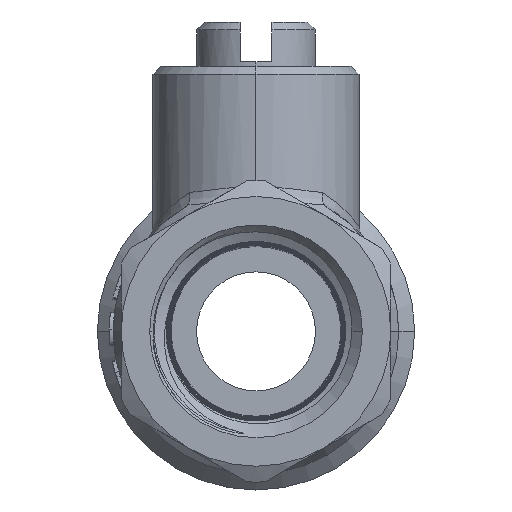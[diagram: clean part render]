
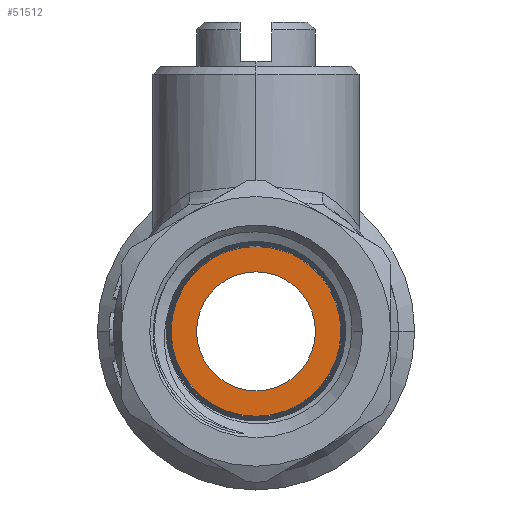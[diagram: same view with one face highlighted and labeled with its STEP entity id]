
A CAD part, left-side view. The second image highlights one B-rep face of the part: STEP entity #51512.
In plain terms, the highlighted planar face has unit normal (-1, 0, 0).
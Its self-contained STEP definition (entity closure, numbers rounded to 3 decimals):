
#25936 = VERTEX_POINT('',#25937);
#25937 = CARTESIAN_POINT('',(-9.,-7.497,
    -8.815));
#25946 = CONICAL_SURFACE('',#25947,5.671,0.031);
#25947 = AXIS2_PLACEMENT_3D('',#25948,#25949,#25950);
#25948 = CARTESIAN_POINT('',(-19.468,-2.145,
    -8.815));
#25949 = DIRECTION('',(-1.,0.,0.));
#25950 = DIRECTION('',(0.,-1.,0.));
#25958 = CONICAL_SURFACE('',#25959,5.671,0.031);
#25959 = AXIS2_PLACEMENT_3D('',#25960,#25961,#25962);
#25960 = CARTESIAN_POINT('',(-19.468,-2.145,
    -8.815));
#25961 = DIRECTION('',(-1.,0.,0.));
#25962 = DIRECTION('',(0.,-1.,0.));
#26209 = VERTEX_POINT('',#26210);
#26210 = CARTESIAN_POINT('',(-9.,3.206,
    -8.815));
#26231 = EDGE_CURVE('',#26209,#25936,#26232,.T.);
#26232 = SURFACE_CURVE('',#26233,(#26238,#26245),.PCURVE_S1.);
#26233 = CIRCLE('',#26234,5.351);
#26234 = AXIS2_PLACEMENT_3D('',#26235,#26236,#26237);
#26235 = CARTESIAN_POINT('',(-9.,-2.145,
    -8.815));
#26236 = DIRECTION('',(-1.,0.,0.));
#26237 = DIRECTION('',(0.,-1.,0.));
#26238 = PCURVE('',#25946,#26239);
#26239 = DEFINITIONAL_REPRESENTATION('',(#26240),#26244);
#26240 = LINE('',#26241,#26242);
#26241 = CARTESIAN_POINT('',(0.,-10.468));
#26242 = VECTOR('',#26243,1.);
#26243 = DIRECTION('',(1.,0.));
#26244 = ( GEOMETRIC_REPRESENTATION_CONTEXT(2) 
PARAMETRIC_REPRESENTATION_CONTEXT() REPRESENTATION_CONTEXT('2D SPACE',''
  ) );
#26245 = PCURVE('',#26246,#26251);
#26246 = PLANE('',#26247);
#26247 = AXIS2_PLACEMENT_3D('',#26248,#26249,#26250);
#26248 = CARTESIAN_POINT('',(-9.,-2.145,
    -8.815));
#26249 = DIRECTION('',(1.,0.,0.));
#26250 = DIRECTION('',(0.,1.,0.));
#26251 = DEFINITIONAL_REPRESENTATION('',(#26252),#26260);
#26252 = ( BOUNDED_CURVE() B_SPLINE_CURVE(2,(#26253,#26254,#26255,#26256
    ,#26257,#26258,#26259),.UNSPECIFIED.,.T.,.F.) 
B_SPLINE_CURVE_WITH_KNOTS((1,2,2,2,2,1),(-2.094,0.,
    2.094,4.189,6.283,8.378),
.UNSPECIFIED.) CURVE() GEOMETRIC_REPRESENTATION_ITEM() 
RATIONAL_B_SPLINE_CURVE((1.,0.5,1.,0.5,1.,0.5,1.)) REPRESENTATION_ITEM(
  '') );
#26253 = CARTESIAN_POINT('',(-5.351,0.));
#26254 = CARTESIAN_POINT('',(-5.351,9.269));
#26255 = CARTESIAN_POINT('',(2.676,4.635));
#26256 = CARTESIAN_POINT('',(10.703,0.));
#26257 = CARTESIAN_POINT('',(2.676,-4.635));
#26258 = CARTESIAN_POINT('',(-5.351,-9.269));
#26259 = CARTESIAN_POINT('',(-5.351,0.));
#26260 = ( GEOMETRIC_REPRESENTATION_CONTEXT(2) 
PARAMETRIC_REPRESENTATION_CONTEXT() REPRESENTATION_CONTEXT('2D SPACE',''
  ) );
#32365 = VERTEX_POINT('',#32366);
#32366 = CARTESIAN_POINT('',(-9.,-5.895,
    -8.815));
#32373 = CYLINDRICAL_SURFACE('',#32374,3.75);
#32374 = AXIS2_PLACEMENT_3D('',#32375,#32376,#32377);
#32375 = CARTESIAN_POINT('',(-20.5,-2.145,
    -8.815));
#32376 = DIRECTION('',(-1.,0.,0.));
#32377 = DIRECTION('',(0.,-1.,0.));
#32385 = CYLINDRICAL_SURFACE('',#32386,3.75);
#32386 = AXIS2_PLACEMENT_3D('',#32387,#32388,#32389);
#32387 = CARTESIAN_POINT('',(-20.5,-2.145,
    -8.815));
#32388 = DIRECTION('',(-1.,0.,0.));
#32389 = DIRECTION('',(0.,-1.,0.));
#32397 = EDGE_CURVE('',#32398,#32365,#32400,.T.);
#32398 = VERTEX_POINT('',#32399);
#32399 = CARTESIAN_POINT('',(-9.,1.605,
    -8.815));
#32400 = SURFACE_CURVE('',#32401,(#32406,#32413),.PCURVE_S1.);
#32401 = CIRCLE('',#32402,3.75);
#32402 = AXIS2_PLACEMENT_3D('',#32403,#32404,#32405);
#32403 = CARTESIAN_POINT('',(-9.,-2.145,
    -8.815));
#32404 = DIRECTION('',(-1.,0.,0.));
#32405 = DIRECTION('',(0.,-1.,0.));
#32406 = PCURVE('',#32373,#32407);
#32407 = DEFINITIONAL_REPRESENTATION('',(#32408),#32412);
#32408 = LINE('',#32409,#32410);
#32409 = CARTESIAN_POINT('',(0.,-11.5));
#32410 = VECTOR('',#32411,1.);
#32411 = DIRECTION('',(1.,0.));
#32412 = ( GEOMETRIC_REPRESENTATION_CONTEXT(2) 
PARAMETRIC_REPRESENTATION_CONTEXT() REPRESENTATION_CONTEXT('2D SPACE',''
  ) );
#32413 = PCURVE('',#26246,#32414);
#32414 = DEFINITIONAL_REPRESENTATION('',(#32415),#32423);
#32415 = ( BOUNDED_CURVE() B_SPLINE_CURVE(2,(#32416,#32417,#32418,#32419
    ,#32420,#32421,#32422),.UNSPECIFIED.,.T.,.F.) 
B_SPLINE_CURVE_WITH_KNOTS((1,2,2,2,2,1),(-2.094,0.,
    2.094,4.189,6.283,8.378),
.UNSPECIFIED.) CURVE() GEOMETRIC_REPRESENTATION_ITEM() 
RATIONAL_B_SPLINE_CURVE((1.,0.5,1.,0.5,1.,0.5,1.)) REPRESENTATION_ITEM(
  '') );
#32416 = CARTESIAN_POINT('',(-3.75,0.));
#32417 = CARTESIAN_POINT('',(-3.75,6.495));
#32418 = CARTESIAN_POINT('',(1.875,3.248));
#32419 = CARTESIAN_POINT('',(7.5,0.));
#32420 = CARTESIAN_POINT('',(1.875,-3.248));
#32421 = CARTESIAN_POINT('',(-3.75,-6.495));
#32422 = CARTESIAN_POINT('',(-3.75,0.));
#32423 = ( GEOMETRIC_REPRESENTATION_CONTEXT(2) 
PARAMETRIC_REPRESENTATION_CONTEXT() REPRESENTATION_CONTEXT('2D SPACE',''
  ) );
#51487 = EDGE_CURVE('',#32365,#32398,#51488,.T.);
#51488 = SURFACE_CURVE('',#51489,(#51494,#51501),.PCURVE_S1.);
#51489 = CIRCLE('',#51490,3.75);
#51490 = AXIS2_PLACEMENT_3D('',#51491,#51492,#51493);
#51491 = CARTESIAN_POINT('',(-9.,-2.145,
    -8.815));
#51492 = DIRECTION('',(-1.,0.,0.));
#51493 = DIRECTION('',(0.,-1.,0.));
#51494 = PCURVE('',#32385,#51495);
#51495 = DEFINITIONAL_REPRESENTATION('',(#51496),#51500);
#51496 = LINE('',#51497,#51498);
#51497 = CARTESIAN_POINT('',(0.,-11.5));
#51498 = VECTOR('',#51499,1.);
#51499 = DIRECTION('',(1.,0.));
#51500 = ( GEOMETRIC_REPRESENTATION_CONTEXT(2) 
PARAMETRIC_REPRESENTATION_CONTEXT() REPRESENTATION_CONTEXT('2D SPACE',''
  ) );
#51501 = PCURVE('',#26246,#51502);
#51502 = DEFINITIONAL_REPRESENTATION('',(#51503),#51511);
#51503 = ( BOUNDED_CURVE() B_SPLINE_CURVE(2,(#51504,#51505,#51506,#51507
    ,#51508,#51509,#51510),.UNSPECIFIED.,.T.,.F.) 
B_SPLINE_CURVE_WITH_KNOTS((1,2,2,2,2,1),(-2.094,0.,
    2.094,4.189,6.283,8.378),
.UNSPECIFIED.) CURVE() GEOMETRIC_REPRESENTATION_ITEM() 
RATIONAL_B_SPLINE_CURVE((1.,0.5,1.,0.5,1.,0.5,1.)) REPRESENTATION_ITEM(
  '') );
#51504 = CARTESIAN_POINT('',(-3.75,0.));
#51505 = CARTESIAN_POINT('',(-3.75,6.495));
#51506 = CARTESIAN_POINT('',(1.875,3.248));
#51507 = CARTESIAN_POINT('',(7.5,0.));
#51508 = CARTESIAN_POINT('',(1.875,-3.248));
#51509 = CARTESIAN_POINT('',(-3.75,-6.495));
#51510 = CARTESIAN_POINT('',(-3.75,0.));
#51511 = ( GEOMETRIC_REPRESENTATION_CONTEXT(2) 
PARAMETRIC_REPRESENTATION_CONTEXT() REPRESENTATION_CONTEXT('2D SPACE',''
  ) );
#51512 = ADVANCED_FACE('',(#51513,#51517),#26246,.F.);
#51513 = FACE_BOUND('',#51514,.T.);
#51514 = EDGE_LOOP('',(#51515,#51516));
#51515 = ORIENTED_EDGE('',*,*,#51487,.F.);
#51516 = ORIENTED_EDGE('',*,*,#32397,.F.);
#51517 = FACE_BOUND('',#51518,.T.);
#51518 = EDGE_LOOP('',(#51519,#51545));
#51519 = ORIENTED_EDGE('',*,*,#51520,.T.);
#51520 = EDGE_CURVE('',#25936,#26209,#51521,.T.);
#51521 = SURFACE_CURVE('',#51522,(#51527,#51538),.PCURVE_S1.);
#51522 = CIRCLE('',#51523,5.351);
#51523 = AXIS2_PLACEMENT_3D('',#51524,#51525,#51526);
#51524 = CARTESIAN_POINT('',(-9.,-2.145,
    -8.815));
#51525 = DIRECTION('',(-1.,0.,0.));
#51526 = DIRECTION('',(0.,-1.,0.));
#51527 = PCURVE('',#26246,#51528);
#51528 = DEFINITIONAL_REPRESENTATION('',(#51529),#51537);
#51529 = ( BOUNDED_CURVE() B_SPLINE_CURVE(2,(#51530,#51531,#51532,#51533
    ,#51534,#51535,#51536),.UNSPECIFIED.,.T.,.F.) 
B_SPLINE_CURVE_WITH_KNOTS((1,2,2,2,2,1),(-2.094,0.,
    2.094,4.189,6.283,8.378),
.UNSPECIFIED.) CURVE() GEOMETRIC_REPRESENTATION_ITEM() 
RATIONAL_B_SPLINE_CURVE((1.,0.5,1.,0.5,1.,0.5,1.)) REPRESENTATION_ITEM(
  '') );
#51530 = CARTESIAN_POINT('',(-5.351,0.));
#51531 = CARTESIAN_POINT('',(-5.351,9.269));
#51532 = CARTESIAN_POINT('',(2.676,4.635));
#51533 = CARTESIAN_POINT('',(10.703,0.));
#51534 = CARTESIAN_POINT('',(2.676,-4.635));
#51535 = CARTESIAN_POINT('',(-5.351,-9.269));
#51536 = CARTESIAN_POINT('',(-5.351,0.));
#51537 = ( GEOMETRIC_REPRESENTATION_CONTEXT(2) 
PARAMETRIC_REPRESENTATION_CONTEXT() REPRESENTATION_CONTEXT('2D SPACE',''
  ) );
#51538 = PCURVE('',#25958,#51539);
#51539 = DEFINITIONAL_REPRESENTATION('',(#51540),#51544);
#51540 = LINE('',#51541,#51542);
#51541 = CARTESIAN_POINT('',(0.,-10.468));
#51542 = VECTOR('',#51543,1.);
#51543 = DIRECTION('',(1.,0.));
#51544 = ( GEOMETRIC_REPRESENTATION_CONTEXT(2) 
PARAMETRIC_REPRESENTATION_CONTEXT() REPRESENTATION_CONTEXT('2D SPACE',''
  ) );
#51545 = ORIENTED_EDGE('',*,*,#26231,.T.);
